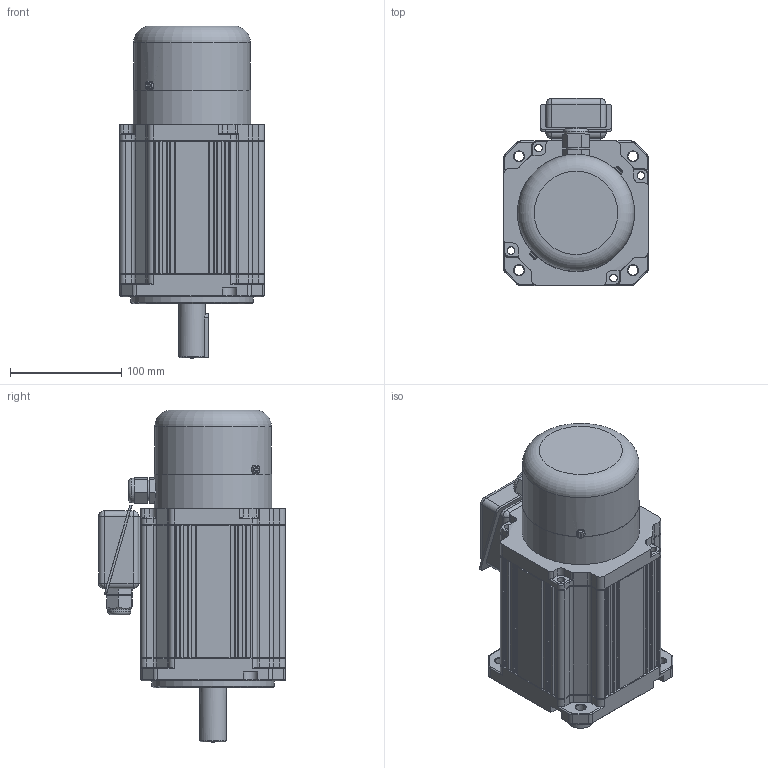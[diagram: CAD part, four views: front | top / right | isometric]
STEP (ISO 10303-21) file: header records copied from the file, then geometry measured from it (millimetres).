
FILE_DESCRIPTION (( 'STEP AP214' ), '1' );
FILE_NAME ('BL130L,Mbrake,Cable 90deg,A24X55_3D-02-S0451.STEP', '2019-08-16T01:32:25', ( '' ), ( '' ), 'SwSTEP 2.0', 'SolidWorks 2016', '' );
FILE_SCHEMA (( 'AUTOMOTIVE_DESIGN' ));
Length unit declared in the file: millimetre
Products named in the file (5): BL130_hall_Mbrake_cover_BL130_hall_Mbrake_cover; BL130, Shaft_A24x55; BL130L_Main_Body,L155.2_BL130L+90deg Cable box. L=155.2mm, 前導引6.0 mm; BL130L,Mbrake,Cable 90deg,A24X55_3D-02-S0451; BL130_Cable_Box_90deg
Assembly tree (4 placements, depth 2):
  BL130L,Mbrake,Cable 90deg,A24X55_3D-02-S0451
    BL130L_Main_Body,L155.2_BL130L+90deg Cable box. L=155.2mm, 前導引6.0 mm
    BL130, Shaft_A24x55
    BL130_Cable_Box_90deg
    BL130_hall_Mbrake_cover_BL130_hall_Mbrake_cover
Bounding box: 130 x 168 x 298.7 mm (x, y, z)
Volume: 1734905.3 mm3; surface area: 282519.9 mm2
Topology: 6 solids, 6 shells, 786 faces, 2053 edges, 1302 vertices
Faces by surface type: plane 437, cylinder 224, bspline 67, cone 51, torus 7
Full cylindrical faces by diameter (mm): 6 x1, 8 x2, 9 x4, 11 x2, 13 x1, 18.5 x1, 20.7 x1, 22 x1, 24 x1, 35 x1, 50 x1, 85 x1, 105 x1, 105.6 x1, 110 x1
Entity records: 30237 total; most frequent: CARTESIAN_POINT 11416, ORIENTED_EDGE 3952, DIRECTION 3676, EDGE_CURVE 1976, VERTEX_POINT 1286, LINE 1270, VECTOR 1270, AXIS2_PLACEMENT_3D 1203
